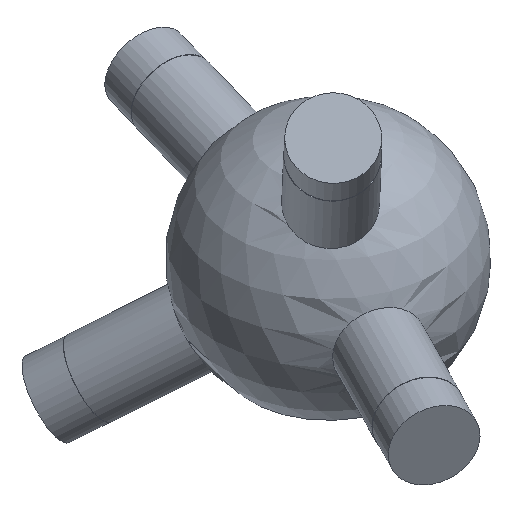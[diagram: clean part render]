
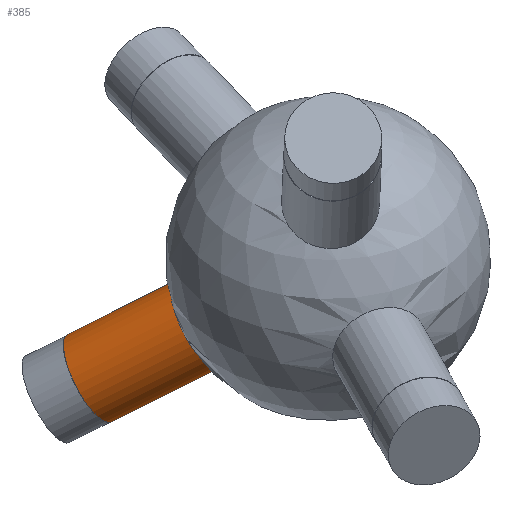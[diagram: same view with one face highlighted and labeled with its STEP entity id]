
A CAD part, isometric view. The second image highlights one B-rep face of the part: STEP entity #385.
In plain terms, the highlighted cylindrical face has radius 6 mm (diameter 12 mm), a full revolution.
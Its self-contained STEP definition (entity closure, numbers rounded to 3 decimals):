
#25 = EDGE_CURVE('',#26,#26,#28,.T.);
#26 = VERTEX_POINT('',#27);
#27 = CARTESIAN_POINT('',(-6.917,15.796,
    -10.131));
#28 = SURFACE_CURVE('',#29,(#34,#94),.PCURVE_S1.);
#29 = CIRCLE('',#30,6.);
#30 = AXIS2_PLACEMENT_3D('',#31,#32,#33);
#31 = CARTESIAN_POINT('',(-11.232,11.628,-10.131
    ));
#32 = DIRECTION('',(-0.589,0.609,-0.531));
#33 = DIRECTION('',(-0.719,-0.695,0.)
  );
#34 = PCURVE('',#35,#40);
#35 = SPHERICAL_SURFACE('',#36,20.);
#36 = AXIS2_PLACEMENT_3D('',#37,#38,#39);
#37 = CARTESIAN_POINT('',(0.,0.,0.));
#38 = DIRECTION('',(0.,0.,1.));
#39 = DIRECTION('',(1.,0.,-0.));
#40 = DEFINITIONAL_REPRESENTATION('',(#41),#93);
#41 = B_SPLINE_CURVE_WITH_KNOTS('',8,(#42,#43,#44,#45,#46,#47,#48,#49,
    #50,#51,#52,#53,#54,#55,#56,#57,#58,#59,#60,#61,#62,#63,#64,#65,#66,
    #67,#68,#69,#70,#71,#72,#73,#74,#75,#76,#77,#78,#79,#80,#81,#82,#83,
    #84,#85,#86,#87,#88,#89,#90,#91,#92),.UNSPECIFIED.,.F.,.F.,(9,7,7,7,
    7,7,7,9),(3.142,3.927,4.614,5.216,
    5.742,6.662,8.044,9.425),
  .UNSPECIFIED.);
#42 = CARTESIAN_POINT('',(1.984,-0.531));
#43 = CARTESIAN_POINT('',(1.977,-0.56));
#44 = CARTESIAN_POINT('',(1.974,-0.59));
#45 = CARTESIAN_POINT('',(1.975,-0.619));
#46 = CARTESIAN_POINT('',(1.98,-0.649));
#47 = CARTESIAN_POINT('',(1.988,-0.678));
#48 = CARTESIAN_POINT('',(2.002,-0.706));
#49 = CARTESIAN_POINT('',(2.02,-0.732));
#50 = CARTESIAN_POINT('',(2.063,-0.778));
#51 = CARTESIAN_POINT('',(2.087,-0.797));
#52 = CARTESIAN_POINT('',(2.114,-0.815));
#53 = CARTESIAN_POINT('',(2.145,-0.83));
#54 = CARTESIAN_POINT('',(2.179,-0.843));
#55 = CARTESIAN_POINT('',(2.216,-0.853));
#56 = CARTESIAN_POINT('',(2.254,-0.859));
#57 = CARTESIAN_POINT('',(2.328,-0.865));
#58 = CARTESIAN_POINT('',(2.363,-0.866));
#59 = CARTESIAN_POINT('',(2.398,-0.864));
#60 = CARTESIAN_POINT('',(2.432,-0.859));
#61 = CARTESIAN_POINT('',(2.465,-0.852));
#62 = CARTESIAN_POINT('',(2.497,-0.842));
#63 = CARTESIAN_POINT('',(2.525,-0.831));
#64 = CARTESIAN_POINT('',(2.575,-0.805));
#65 = CARTESIAN_POINT('',(2.596,-0.792));
#66 = CARTESIAN_POINT('',(2.615,-0.778));
#67 = CARTESIAN_POINT('',(2.632,-0.762));
#68 = CARTESIAN_POINT('',(2.647,-0.745));
#69 = CARTESIAN_POINT('',(2.66,-0.728));
#70 = CARTESIAN_POINT('',(2.671,-0.71));
#71 = CARTESIAN_POINT('',(2.694,-0.659));
#72 = CARTESIAN_POINT('',(2.703,-0.625));
#73 = CARTESIAN_POINT('',(2.706,-0.59));
#74 = CARTESIAN_POINT('',(2.703,-0.555));
#75 = CARTESIAN_POINT('',(2.696,-0.52));
#76 = CARTESIAN_POINT('',(2.684,-0.487));
#77 = CARTESIAN_POINT('',(2.669,-0.455));
#78 = CARTESIAN_POINT('',(2.621,-0.38));
#79 = CARTESIAN_POINT('',(2.585,-0.34));
#80 = CARTESIAN_POINT('',(2.542,-0.306));
#81 = CARTESIAN_POINT('',(2.493,-0.279));
#82 = CARTESIAN_POINT('',(2.441,-0.261));
#83 = CARTESIAN_POINT('',(2.387,-0.252));
#84 = CARTESIAN_POINT('',(2.333,-0.251));
#85 = CARTESIAN_POINT('',(2.227,-0.268));
#86 = CARTESIAN_POINT('',(2.176,-0.286));
#87 = CARTESIAN_POINT('',(2.128,-0.312));
#88 = CARTESIAN_POINT('',(2.084,-0.345));
#89 = CARTESIAN_POINT('',(2.046,-0.386));
#90 = CARTESIAN_POINT('',(2.016,-0.431));
#91 = CARTESIAN_POINT('',(1.995,-0.48));
#92 = CARTESIAN_POINT('',(1.984,-0.531));
#93 = ( GEOMETRIC_REPRESENTATION_CONTEXT(2) 
PARAMETRIC_REPRESENTATION_CONTEXT() REPRESENTATION_CONTEXT('2D SPACE',''
  ) );
#94 = PCURVE('',#95,#100);
#95 = CYLINDRICAL_SURFACE('',#96,6.);
#96 = AXIS2_PLACEMENT_3D('',#97,#98,#99);
#97 = CARTESIAN_POINT('',(0.,0.,0.));
#98 = DIRECTION('',(-0.589,0.609,-0.531));
#99 = DIRECTION('',(0.719,0.695,0.));
#100 = DEFINITIONAL_REPRESENTATION('',(#101),#105);
#101 = LINE('',#102,#103);
#102 = CARTESIAN_POINT('',(-3.142,19.079));
#103 = VECTOR('',#104,1.);
#104 = DIRECTION('',(1.,0.));
#105 = ( GEOMETRIC_REPRESENTATION_CONTEXT(2) 
PARAMETRIC_REPRESENTATION_CONTEXT() REPRESENTATION_CONTEXT('2D SPACE',''
  ) );
#385 = ADVANCED_FACE('',(#386),#95,.T.);
#386 = FACE_BOUND('',#387,.T.);
#387 = EDGE_LOOP('',(#388,#411,#438,#439));
#388 = ORIENTED_EDGE('',*,*,#389,.T.);
#389 = EDGE_CURVE('',#26,#390,#392,.T.);
#390 = VERTEX_POINT('',#391);
#391 = CARTESIAN_POINT('',(-16.066,25.267,
    -18.383));
#392 = SEAM_CURVE('',#393,(#397,#404),.PCURVE_S1.);
#393 = LINE('',#394,#395);
#394 = CARTESIAN_POINT('',(4.315,4.169,
    0.));
#395 = VECTOR('',#396,1.);
#396 = DIRECTION('',(-0.589,0.609,-0.531));
#397 = PCURVE('',#95,#398);
#398 = DEFINITIONAL_REPRESENTATION('',(#399),#403);
#399 = LINE('',#400,#401);
#400 = CARTESIAN_POINT('',(6.283,-0.));
#401 = VECTOR('',#402,1.);
#402 = DIRECTION('',(0.,1.));
#403 = ( GEOMETRIC_REPRESENTATION_CONTEXT(2) 
PARAMETRIC_REPRESENTATION_CONTEXT() REPRESENTATION_CONTEXT('2D SPACE',''
  ) );
#404 = PCURVE('',#95,#405);
#405 = DEFINITIONAL_REPRESENTATION('',(#406),#410);
#406 = LINE('',#407,#408);
#407 = CARTESIAN_POINT('',(0.,-0.));
#408 = VECTOR('',#409,1.);
#409 = DIRECTION('',(0.,1.));
#410 = ( GEOMETRIC_REPRESENTATION_CONTEXT(2) 
PARAMETRIC_REPRESENTATION_CONTEXT() REPRESENTATION_CONTEXT('2D SPACE',''
  ) );
#411 = ORIENTED_EDGE('',*,*,#412,.F.);
#412 = EDGE_CURVE('',#390,#390,#413,.T.);
#413 = SURFACE_CURVE('',#414,(#419,#426),.PCURVE_S1.);
#414 = CIRCLE('',#415,6.);
#415 = AXIS2_PLACEMENT_3D('',#416,#417,#418);
#416 = CARTESIAN_POINT('',(-20.381,21.099,
    -18.383));
#417 = DIRECTION('',(-0.589,0.609,-0.531));
#418 = DIRECTION('',(0.719,0.695,0.));
#419 = PCURVE('',#95,#420);
#420 = DEFINITIONAL_REPRESENTATION('',(#421),#425);
#421 = LINE('',#422,#423);
#422 = CARTESIAN_POINT('',(0.,34.619));
#423 = VECTOR('',#424,1.);
#424 = DIRECTION('',(1.,0.));
#425 = ( GEOMETRIC_REPRESENTATION_CONTEXT(2) 
PARAMETRIC_REPRESENTATION_CONTEXT() REPRESENTATION_CONTEXT('2D SPACE',''
  ) );
#426 = PCURVE('',#427,#432);
#427 = PLANE('',#428);
#428 = AXIS2_PLACEMENT_3D('',#429,#430,#431);
#429 = CARTESIAN_POINT('',(-20.381,21.099,
    -18.383));
#430 = DIRECTION('',(-0.589,0.609,-0.531));
#431 = DIRECTION('',(0.719,0.695,0.));
#432 = DEFINITIONAL_REPRESENTATION('',(#433),#437);
#433 = CIRCLE('',#434,6.);
#434 = AXIS2_PLACEMENT_2D('',#435,#436);
#435 = CARTESIAN_POINT('',(0.,0.));
#436 = DIRECTION('',(1.,0.));
#437 = ( GEOMETRIC_REPRESENTATION_CONTEXT(2) 
PARAMETRIC_REPRESENTATION_CONTEXT() REPRESENTATION_CONTEXT('2D SPACE',''
  ) );
#438 = ORIENTED_EDGE('',*,*,#389,.F.);
#439 = ORIENTED_EDGE('',*,*,#25,.T.);
